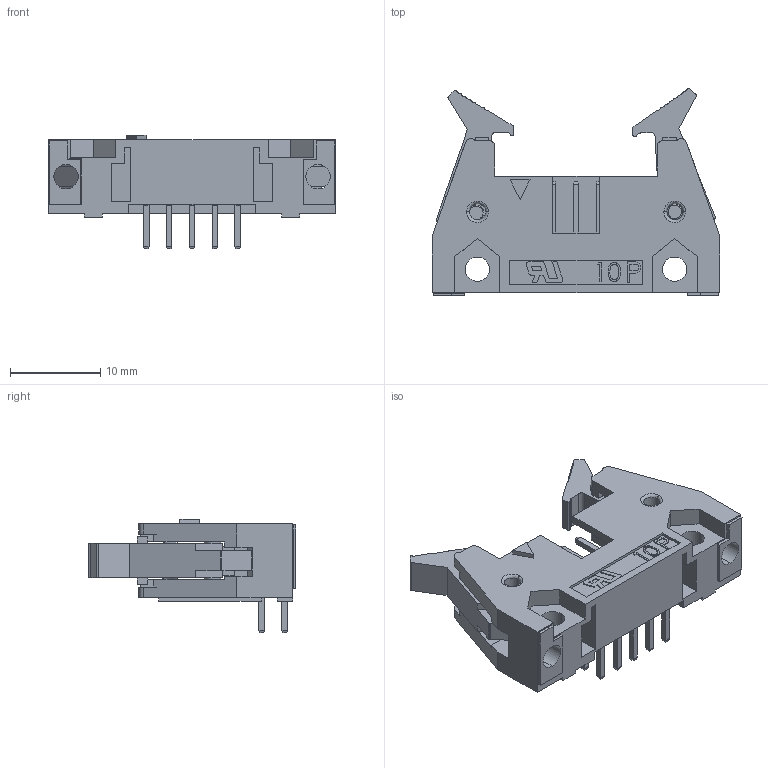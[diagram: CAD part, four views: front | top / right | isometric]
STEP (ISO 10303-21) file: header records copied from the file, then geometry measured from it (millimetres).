
FILE_DESCRIPTION (( 'STEP AP214' ), '1' );
FILE_NAME ('3011-10G00RB2A.STEP', '2020-04-29T07:55:30', ( '' ), ( '' ), 'SwSTEP 2.0', 'SolidWorks 2011', '' );
FILE_SCHEMA (( 'AUTOMOTIVE_DESIGN' ));
Length unit declared in the file: millimetre
Products named in the file (1): 3011-10G00RB2A
Bounding box: 31.88 x 23 x 12.6 mm (x, y, z)
Volume: 2368.6 mm3; surface area: 3474.5 mm2
Topology: 11 solids, 11 shells, 601 faces, 1583 edges, 1022 vertices
Faces by surface type: plane 465, cylinder 92, bspline 32, cone 12
Entity records: 26290 total; most frequent: CARTESIAN_POINT 5172, ORIENTED_EDGE 3166, DIRECTION 2833, EDGE_CURVE 1583, LINE 1251, VECTOR 1251, VERTEX_POINT 1022, AXIS2_PLACEMENT_3D 791
